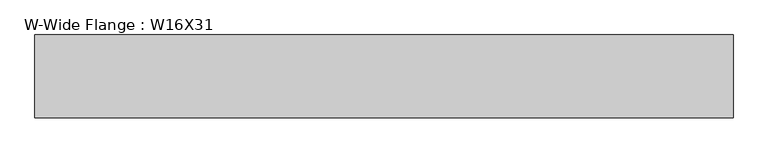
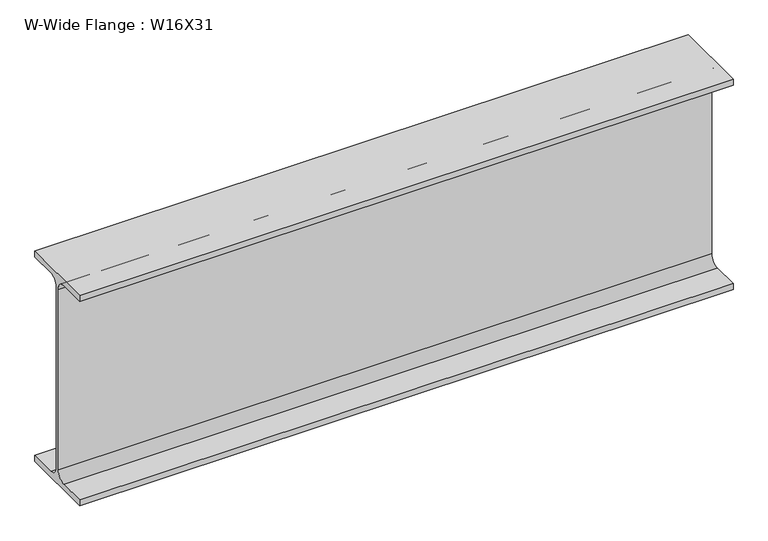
"""IFC4 building model written with IfcOpenShell, lengths in millimetres: beam geometry, W-Wide Flange : W16X31."""

from ifc_helpers import new_model, si_unit, point, frame, frame_2d, origin, place, context, project, spatial, polyline, circle_curve, trimmed, segment, composite_curve, outline, extrude, source, transform, mapped, element, save


def w_wide_flange_w16x31_b5bae09e(model_context):
    return source(origin(), model_context, "Body", "SweptSolid", [
        extrude(outline(composite_curve([segment(polyline([(70.231, -190.754), (70.231, -201.93), (-70.231, -201.93), (-70.231, -190.754), (-20.8915, -190.754)]), True, "CONTINUOUS"), segment(trimmed(circle_curve(frame_2d((-20.8915, -173.355)), 17.399), [point((-20.8915, -190.754))], [point((-3.4925, -173.355))], True, "CARTESIAN"), True, "CONTINUOUS"), segment(polyline([(-3.4925, -173.355), (-3.4925, 173.355)]), True, "CONTINUOUS"), segment(trimmed(circle_curve(frame_2d((-20.8915, 173.355)), 17.399), [point((-3.4925, 173.355))], [point((-20.8915, 190.754))], True, "CARTESIAN"), True, "CONTINUOUS"), segment(polyline([(-20.8915, 190.754), (-70.231, 190.754), (-70.231, 201.93), (70.231, 201.93), (70.231, 190.754), (20.8915, 190.754)]), True, "CONTINUOUS"), segment(trimmed(circle_curve(frame_2d((20.8915, 173.355)), 17.399), [point((20.8915, 190.754))], [point((3.4925, 173.355))], True, "CARTESIAN"), True, "CONTINUOUS"), segment(polyline([(3.4925, 173.355), (3.4925, -173.355)]), True, "CONTINUOUS"), segment(trimmed(circle_curve(frame_2d((20.8915, -173.355)), 17.399), [point((3.4925, -173.355))], [point((20.8915, -190.754))], True, "CARTESIAN"), True, "CONTINUOUS"), segment(polyline([(20.8915, -190.754), (70.231, -190.754)]), True, "CONTINUOUS")], self_intersect=False)), frame((-509.2048706, 0.0, 0.0), z_axis=(1.0, 0.0, 0.0), x_axis=(0.0, 1.0, 0.0)), (0.0, 0.0, 1.0), 1185.9337831),
    ])


if __name__ == "__main__":
    model = new_model("IFC4")
    model_context = context("Model", 3, world=origin())
    ifc_project = project(units=[si_unit("LENGTHUNIT", "METRE", prefix="MILLI")], contexts=[model_context])
    site = spatial("IfcSite", under=ifc_project)
    building = spatial("IfcBuilding", under=site)
    placement = place(None, origin())
    w_wide_flange_w16x31_shape = w_wide_flange_w16x31_b5bae09e(model_context)
    element("IfcBeam", 1, ObjectType="W-Wide Flange : W16X31", at=placement, inside=building, context=model_context, shape_type="MappedRepresentation", body=[
        mapped(w_wide_flange_w16x31_shape, transform((0.0, 0.0, 0.0), x_axis=(1.0, 0.0, 0.0), y_axis=(0.0, 1.0, 0.0), z_axis=(0.0, 0.0, 1.0))),
    ])
    save(model, "model.ifc")
